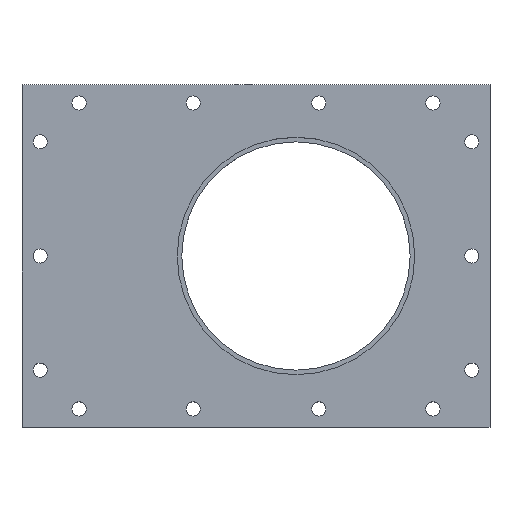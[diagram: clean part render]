
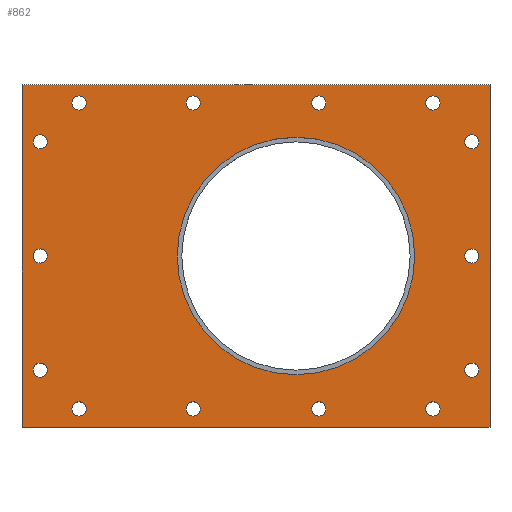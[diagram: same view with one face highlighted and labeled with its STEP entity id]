
A CAD part, top view. The second image highlights one B-rep face of the part: STEP entity #862.
In plain terms, the highlighted planar face has unit normal (0, 0, 1).
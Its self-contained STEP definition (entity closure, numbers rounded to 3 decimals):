
#33 = VERTEX_POINT('',#34);
#34 = CARTESIAN_POINT('',(11.1,125.,10.));
#39 = EDGE_CURVE('',#33,#33,#40,.T.);
#40 = CIRCLE('',#41,3.1);
#41 = AXIS2_PLACEMENT_3D('',#42,#43,#44);
#42 = CARTESIAN_POINT('',(8.,125.,10.));
#43 = DIRECTION('',(0.,0.,-1.));
#44 = DIRECTION('',(1.,0.,0.));
#74 = VERTEX_POINT('',#75);
#75 = CARTESIAN_POINT('',(11.1,75.,10.));
#80 = EDGE_CURVE('',#74,#74,#81,.T.);
#81 = CIRCLE('',#82,3.1);
#82 = AXIS2_PLACEMENT_3D('',#83,#84,#85);
#83 = CARTESIAN_POINT('',(8.,75.,10.));
#84 = DIRECTION('',(0.,0.,-1.));
#85 = DIRECTION('',(1.,0.,0.));
#115 = VERTEX_POINT('',#116);
#116 = CARTESIAN_POINT('',(11.1,25.,10.));
#121 = EDGE_CURVE('',#115,#115,#122,.T.);
#122 = CIRCLE('',#123,3.1);
#123 = AXIS2_PLACEMENT_3D('',#124,#125,#126);
#124 = CARTESIAN_POINT('',(8.,25.,10.));
#125 = DIRECTION('',(0.,0.,-1.));
#126 = DIRECTION('',(1.,0.,0.));
#156 = VERTEX_POINT('',#157);
#157 = CARTESIAN_POINT('',(28.1,8.,10.));
#162 = EDGE_CURVE('',#156,#156,#163,.T.);
#163 = CIRCLE('',#164,3.1);
#164 = AXIS2_PLACEMENT_3D('',#165,#166,#167);
#165 = CARTESIAN_POINT('',(25.,8.,10.));
#166 = DIRECTION('',(0.,0.,-1.));
#167 = DIRECTION('',(1.,0.,0.));
#197 = VERTEX_POINT('',#198);
#198 = CARTESIAN_POINT('',(78.1,8.,10.));
#203 = EDGE_CURVE('',#197,#197,#204,.T.);
#204 = CIRCLE('',#205,3.1);
#205 = AXIS2_PLACEMENT_3D('',#206,#207,#208);
#206 = CARTESIAN_POINT('',(75.,8.,10.));
#207 = DIRECTION('',(0.,0.,-1.));
#208 = DIRECTION('',(1.,0.,0.));
#238 = VERTEX_POINT('',#239);
#239 = CARTESIAN_POINT('',(133.1,8.,10.));
#244 = EDGE_CURVE('',#238,#238,#245,.T.);
#245 = CIRCLE('',#246,3.1);
#246 = AXIS2_PLACEMENT_3D('',#247,#248,#249);
#247 = CARTESIAN_POINT('',(130.,8.,10.));
#248 = DIRECTION('',(0.,0.,-1.));
#249 = DIRECTION('',(1.,0.,0.));
#279 = VERTEX_POINT('',#280);
#280 = CARTESIAN_POINT('',(183.1,8.,10.));
#285 = EDGE_CURVE('',#279,#279,#286,.T.);
#286 = CIRCLE('',#287,3.1);
#287 = AXIS2_PLACEMENT_3D('',#288,#289,#290);
#288 = CARTESIAN_POINT('',(180.,8.,10.));
#289 = DIRECTION('',(0.,0.,-1.));
#290 = DIRECTION('',(1.,0.,0.));
#320 = VERTEX_POINT('',#321);
#321 = CARTESIAN_POINT('',(200.1,25.,10.));
#326 = EDGE_CURVE('',#320,#320,#327,.T.);
#327 = CIRCLE('',#328,3.1);
#328 = AXIS2_PLACEMENT_3D('',#329,#330,#331);
#329 = CARTESIAN_POINT('',(197.,25.,10.));
#330 = DIRECTION('',(0.,0.,-1.));
#331 = DIRECTION('',(1.,0.,0.));
#361 = VERTEX_POINT('',#362);
#362 = CARTESIAN_POINT('',(200.1,75.,10.));
#367 = EDGE_CURVE('',#361,#361,#368,.T.);
#368 = CIRCLE('',#369,3.1);
#369 = AXIS2_PLACEMENT_3D('',#370,#371,#372);
#370 = CARTESIAN_POINT('',(197.,75.,10.));
#371 = DIRECTION('',(0.,0.,-1.));
#372 = DIRECTION('',(1.,0.,0.));
#402 = VERTEX_POINT('',#403);
#403 = CARTESIAN_POINT('',(200.1,125.,10.));
#408 = EDGE_CURVE('',#402,#402,#409,.T.);
#409 = CIRCLE('',#410,3.1);
#410 = AXIS2_PLACEMENT_3D('',#411,#412,#413);
#411 = CARTESIAN_POINT('',(197.,125.,10.));
#412 = DIRECTION('',(0.,0.,-1.));
#413 = DIRECTION('',(1.,0.,0.));
#443 = VERTEX_POINT('',#444);
#444 = CARTESIAN_POINT('',(183.1,142.,10.));
#449 = EDGE_CURVE('',#443,#443,#450,.T.);
#450 = CIRCLE('',#451,3.1);
#451 = AXIS2_PLACEMENT_3D('',#452,#453,#454);
#452 = CARTESIAN_POINT('',(180.,142.,10.));
#453 = DIRECTION('',(0.,0.,-1.));
#454 = DIRECTION('',(1.,0.,0.));
#484 = VERTEX_POINT('',#485);
#485 = CARTESIAN_POINT('',(133.1,142.,10.));
#490 = EDGE_CURVE('',#484,#484,#491,.T.);
#491 = CIRCLE('',#492,3.1);
#492 = AXIS2_PLACEMENT_3D('',#493,#494,#495);
#493 = CARTESIAN_POINT('',(130.,142.,10.));
#494 = DIRECTION('',(0.,0.,-1.));
#495 = DIRECTION('',(1.,0.,0.));
#525 = VERTEX_POINT('',#526);
#526 = CARTESIAN_POINT('',(78.1,142.,10.));
#531 = EDGE_CURVE('',#525,#525,#532,.T.);
#532 = CIRCLE('',#533,3.1);
#533 = AXIS2_PLACEMENT_3D('',#534,#535,#536);
#534 = CARTESIAN_POINT('',(75.,142.,10.));
#535 = DIRECTION('',(0.,0.,-1.));
#536 = DIRECTION('',(1.,0.,0.));
#566 = VERTEX_POINT('',#567);
#567 = CARTESIAN_POINT('',(28.1,142.,10.));
#572 = EDGE_CURVE('',#566,#566,#573,.T.);
#573 = CIRCLE('',#574,3.1);
#574 = AXIS2_PLACEMENT_3D('',#575,#576,#577);
#575 = CARTESIAN_POINT('',(25.,142.,10.));
#576 = DIRECTION('',(0.,0.,-1.));
#577 = DIRECTION('',(1.,0.,0.));
#605 = VERTEX_POINT('',#606);
#606 = CARTESIAN_POINT('',(172.,75.,10.));
#611 = EDGE_CURVE('',#605,#605,#612,.T.);
#612 = CIRCLE('',#613,52.);
#613 = AXIS2_PLACEMENT_3D('',#614,#615,#616);
#614 = CARTESIAN_POINT('',(120.,75.,10.));
#615 = DIRECTION('',(0.,0.,-1.));
#616 = DIRECTION('',(-1.,0.,0.));
#671 = EDGE_CURVE('',#672,#674,#676,.T.);
#672 = VERTEX_POINT('',#673);
#673 = CARTESIAN_POINT('',(0.,0.,10.));
#674 = VERTEX_POINT('',#675);
#675 = CARTESIAN_POINT('',(0.,150.,10.));
#676 = LINE('',#677,#678);
#677 = CARTESIAN_POINT('',(0.,150.,10.));
#678 = VECTOR('',#679,1.);
#679 = DIRECTION('',(0.,1.,0.));
#711 = EDGE_CURVE('',#674,#712,#714,.T.);
#712 = VERTEX_POINT('',#713);
#713 = CARTESIAN_POINT('',(205.,150.,10.));
#714 = LINE('',#715,#716);
#715 = CARTESIAN_POINT('',(205.,150.,10.));
#716 = VECTOR('',#717,1.);
#717 = DIRECTION('',(1.,0.,0.));
#742 = EDGE_CURVE('',#712,#743,#745,.T.);
#743 = VERTEX_POINT('',#744);
#744 = CARTESIAN_POINT('',(205.,-0.,10.));
#745 = LINE('',#746,#747);
#746 = CARTESIAN_POINT('',(205.,-0.,10.));
#747 = VECTOR('',#748,1.);
#748 = DIRECTION('',(0.,-1.,0.));
#773 = EDGE_CURVE('',#743,#672,#774,.T.);
#774 = LINE('',#775,#776);
#775 = CARTESIAN_POINT('',(0.,0.,10.));
#776 = VECTOR('',#777,1.);
#777 = DIRECTION('',(-1.,0.,0.));
#862 = ADVANCED_FACE('',(#863,#869,#872,#875,#878,#881,#884,#887,#890,
    #893,#896,#899,#902,#905,#908,#911),#914,.T.);
#863 = FACE_BOUND('',#864,.T.);
#864 = EDGE_LOOP('',(#865,#866,#867,#868));
#865 = ORIENTED_EDGE('',*,*,#671,.F.);
#866 = ORIENTED_EDGE('',*,*,#773,.F.);
#867 = ORIENTED_EDGE('',*,*,#742,.F.);
#868 = ORIENTED_EDGE('',*,*,#711,.F.);
#869 = FACE_BOUND('',#870,.T.);
#870 = EDGE_LOOP('',(#871));
#871 = ORIENTED_EDGE('',*,*,#39,.T.);
#872 = FACE_BOUND('',#873,.T.);
#873 = EDGE_LOOP('',(#874));
#874 = ORIENTED_EDGE('',*,*,#80,.T.);
#875 = FACE_BOUND('',#876,.T.);
#876 = EDGE_LOOP('',(#877));
#877 = ORIENTED_EDGE('',*,*,#121,.T.);
#878 = FACE_BOUND('',#879,.T.);
#879 = EDGE_LOOP('',(#880));
#880 = ORIENTED_EDGE('',*,*,#162,.T.);
#881 = FACE_BOUND('',#882,.T.);
#882 = EDGE_LOOP('',(#883));
#883 = ORIENTED_EDGE('',*,*,#203,.T.);
#884 = FACE_BOUND('',#885,.T.);
#885 = EDGE_LOOP('',(#886));
#886 = ORIENTED_EDGE('',*,*,#244,.T.);
#887 = FACE_BOUND('',#888,.T.);
#888 = EDGE_LOOP('',(#889));
#889 = ORIENTED_EDGE('',*,*,#285,.T.);
#890 = FACE_BOUND('',#891,.T.);
#891 = EDGE_LOOP('',(#892));
#892 = ORIENTED_EDGE('',*,*,#326,.T.);
#893 = FACE_BOUND('',#894,.T.);
#894 = EDGE_LOOP('',(#895));
#895 = ORIENTED_EDGE('',*,*,#367,.T.);
#896 = FACE_BOUND('',#897,.T.);
#897 = EDGE_LOOP('',(#898));
#898 = ORIENTED_EDGE('',*,*,#408,.T.);
#899 = FACE_BOUND('',#900,.T.);
#900 = EDGE_LOOP('',(#901));
#901 = ORIENTED_EDGE('',*,*,#449,.T.);
#902 = FACE_BOUND('',#903,.T.);
#903 = EDGE_LOOP('',(#904));
#904 = ORIENTED_EDGE('',*,*,#490,.T.);
#905 = FACE_BOUND('',#906,.T.);
#906 = EDGE_LOOP('',(#907));
#907 = ORIENTED_EDGE('',*,*,#531,.T.);
#908 = FACE_BOUND('',#909,.T.);
#909 = EDGE_LOOP('',(#910));
#910 = ORIENTED_EDGE('',*,*,#572,.T.);
#911 = FACE_BOUND('',#912,.T.);
#912 = EDGE_LOOP('',(#913));
#913 = ORIENTED_EDGE('',*,*,#611,.T.);
#914 = PLANE('',#915);
#915 = AXIS2_PLACEMENT_3D('',#916,#917,#918);
#916 = CARTESIAN_POINT('',(102.5,75.,10.));
#917 = DIRECTION('',(0.,0.,1.));
#918 = DIRECTION('',(1.,0.,-0.));
